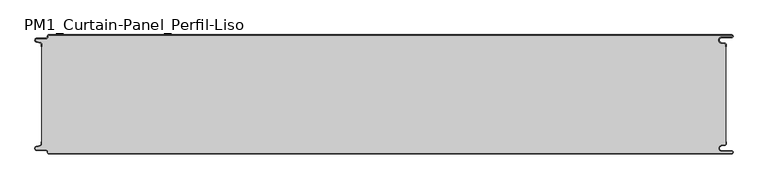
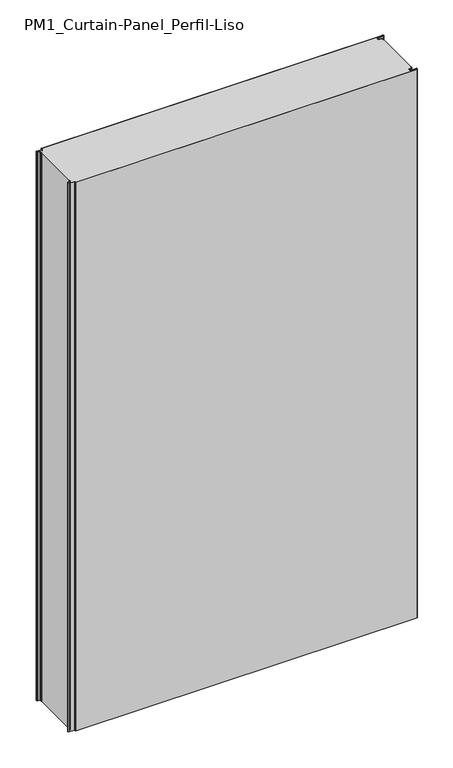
"""IFC4 building model written with IfcOpenShell, lengths in millimetres: plate geometry, PM1_Curtain-Panel_Perfil-Liso : ACH_PM1_Panel-Acústico-Sectorización_200M."""

from ifc_helpers import new_model, si_unit, point, frame, frame_2d, origin, origin_with_axes, place, context, project, spatial, polyline, circle_curve, trimmed, segment, composite_curve, outline, extrude, source, transform, mapped, element, save
from ifc_brep_helpers import plane_surface, cylinder_surface, revolved_surface, advanced_brep


def pm1_curtain_panel_perfil_liso_6e2cb82f(model_context):
    return source(origin(), model_context, "Body", "SolidModel", [
        advanced_brep(
        [(583.1, 0.0, 1945.7507136), (-562.4, 0.0, 1945.7507136), (-564.4, -2.0, 1945.7507136), (-564.4, -3.4, 1945.7507136), (-566.4, -5.4, 1945.7507136), (-581.9, -5.4, 1945.7507136), (-582.7098239, -12.5077322, 1945.7507136), (-576.5500979, -13.929817, 1945.7507136), (-575.0, -15.878557, 1945.7507136), (-575.0, -20.0, 1945.7507136), (-574.2, -20.0, 1945.7507136), (-574.2, -15.878557, 1945.7507136), (-576.370137, -13.1503208, 1945.7507136), (-582.529863, -11.728236, 1945.7507136), (-581.9, -6.2, 1945.7507136), (-566.4, -6.2, 1945.7507136), (-563.6, -3.4, 1945.7507136), (-563.6, -2.0, 1945.7507136), (-562.4, -0.8, 1945.7507136), (583.1, -0.8, 1945.7507136), (583.1, -4.2, 1945.7507136), (566.1, -4.2, 1945.7507136), (565.266489, -13.7270773, 1945.7507136), (571.7125666, -14.8636942, 1945.7507136), (573.2, -16.636348, 1945.7507136), (573.2, -20.0, 1945.7507136), (574.0, -20.0, 1945.7507136), (574.0, -16.636348, 1945.7507136), (571.8514851, -14.0758478, 1945.7507136), (565.4054075, -12.9392309, 1945.7507136), (566.1, -5.0, 1945.7507136), (583.1, -5.0, 1945.7507136), (585.6, -2.5, 1945.7507136), (-562.4, 0.0, 0.0), (583.1, 0.0, 0.0), (585.6, -2.5, 0.0), (583.1, -5.0, 0.0), (566.1, -5.0, 0.0), (565.4054075, -12.939231, 0.0), (571.8514851, -14.075848, 0.0), (574.0, -16.636348, 0.0), (574.0, -20.0, 0.0), (573.2, -20.0, 0.0), (573.2, -16.636348, 0.0), (571.7125666, -14.863694, 0.0), (565.266489, -13.7270771, 0.0), (566.1, -4.2, 0.0), (583.1, -4.2, 0.0), (583.1, -0.8, 0.0), (-562.4, -0.8, 0.0), (-563.6, -2.0, 0.0), (-563.6, -3.4, 0.0), (-566.4, -6.2, 0.0), (-581.9, -6.2, 0.0), (-582.529863, -11.7282362, 0.0), (-576.370137, -13.150321, 0.0), (-574.2, -15.878557, 0.0), (-574.2, -20.0, 0.0), (-575.0, -20.0, 0.0), (-575.0, -15.878557, 0.0), (-576.5500978, -13.9298169, 0.0), (-582.7098239, -12.507732, 0.0), (-581.9, -5.4, 0.0), (-566.4, -5.4, 0.0), (-564.4, -3.4, 0.0), (-564.4, -2.0, 0.0)],
        [
            (0, 1),
            (1, 2, circle_curve(frame((-562.4, -2.0, 1945.7507136), z_axis=(0.0, 0.0, 1.0), x_axis=(1.0, 0.0, 0.0)), 2.0)),
            (2, 3),
            (3, 4, circle_curve(frame((-566.4, -3.4, 1945.7507136), z_axis=(0.0, 0.0, -1.0), x_axis=(1.0, 0.0, 0.0)), 2.0)),
            (4, 5),
            (5, 6, circle_curve(frame((-581.9, -9.0, 1945.7507136), z_axis=(0.0, 0.0, 1.0), x_axis=(1.0, 0.0, 0.0)), 3.6)),
            (6, 7),
            (7, 8, circle_curve(frame((-577.0, -15.878557, 1945.7507136), z_axis=(0.0, 0.0, -1.0), x_axis=(1.0, 0.0, 0.0)), 2.0)),
            (8, 9),
            (9, 10),
            (10, 11),
            (11, 12, circle_curve(frame((-577.0, -15.878557, 1945.7507136), z_axis=(0.0, 0.0, 1.0), x_axis=(1.0, 0.0, 0.0)), 2.8)),
            (12, 13),
            (13, 14, circle_curve(frame((-581.9, -9.0, 1945.7507136), z_axis=(0.0, 0.0, -1.0), x_axis=(1.0, 0.0, 0.0)), 2.8)),
            (14, 15),
            (15, 16, circle_curve(frame((-566.4, -3.4, 1945.7507136), z_axis=(0.0, 0.0, 1.0), x_axis=(1.0, 0.0, 0.0)), 2.8)),
            (16, 17),
            (17, 18, circle_curve(frame((-562.4, -2.0, 1945.7507136), z_axis=(0.0, 0.0, -1.0), x_axis=(1.0, 0.0, 0.0)), 1.2)),
            (18, 19),
            (19, 20, circle_curve(frame((583.1, -2.5, 1945.7507136), z_axis=(0.0, 0.0, -1.0), x_axis=(1.0, 0.0, 0.0)), 1.7)),
            (20, 21),
            (21, 22, circle_curve(frame((566.1, -9.0, 1945.7507136), z_axis=(0.0, 0.0, 1.0), x_axis=(1.0, 0.0, 0.0)), 4.8)),
            (22, 23),
            (23, 24, circle_curve(frame((571.4, -16.636348, 1945.7507136), z_axis=(0.0, 0.0, -1.0), x_axis=(1.0, 0.0, 0.0)), 1.8)),
            (24, 25),
            (25, 26),
            (26, 27),
            (27, 28, circle_curve(frame((571.4, -16.636348, 1945.7507136), z_axis=(0.0, 0.0, 1.0), x_axis=(1.0, 0.0, 0.0)), 2.6)),
            (28, 29),
            (29, 30, circle_curve(frame((566.1, -9.0, 1945.7507136), z_axis=(0.0, 0.0, -1.0), x_axis=(1.0, 0.0, 0.0)), 4.0)),
            (30, 31),
            (31, 32, circle_curve(frame((583.1, -2.5, 1945.7507136), z_axis=(0.0, 0.0, 1.0), x_axis=(1.0, 0.0, 0.0)), 2.5)),
            (32, 0, circle_curve(frame((583.1, -2.5, 1945.7507136), z_axis=(0.0, 0.0, 1.0), x_axis=(1.0, 0.0, 0.0)), 2.5)),
            (33, 34),
            (34, 35, circle_curve(frame((583.1, -2.5, 0.0), z_axis=(0.0, 0.0, -1.0), x_axis=(1.0, 0.0, 0.0)), 2.5)),
            (35, 36, circle_curve(frame((583.1, -2.5, 0.0), z_axis=(0.0, 0.0, -1.0), x_axis=(1.0, 0.0, 0.0)), 2.5)),
            (36, 37),
            (37, 38, circle_curve(frame((566.1, -9.0, 0.0), z_axis=(0.0, 0.0, 1.0), x_axis=(1.0, 0.0, 0.0)), 4.0)),
            (38, 39),
            (39, 40, circle_curve(frame((571.4, -16.636348, 0.0), z_axis=(0.0, 0.0, -1.0), x_axis=(1.0, 0.0, 0.0)), 2.6)),
            (40, 41),
            (41, 42),
            (42, 43),
            (43, 44, circle_curve(frame((571.4, -16.636348, 0.0), z_axis=(0.0, 0.0, 1.0), x_axis=(1.0, 0.0, 0.0)), 1.8)),
            (44, 45),
            (45, 46, circle_curve(frame((566.1, -9.0, 0.0), z_axis=(0.0, 0.0, -1.0), x_axis=(1.0, 0.0, 0.0)), 4.8)),
            (46, 47),
            (47, 48, circle_curve(frame((583.1, -2.5, 0.0), z_axis=(0.0, 0.0, 1.0), x_axis=(1.0, 0.0, 0.0)), 1.7)),
            (48, 49),
            (49, 50, circle_curve(frame((-562.4, -2.0, 0.0), z_axis=(0.0, 0.0, 1.0), x_axis=(1.0, 0.0, 0.0)), 1.2)),
            (50, 51),
            (51, 52, circle_curve(frame((-566.4, -3.4, 0.0), z_axis=(0.0, 0.0, -1.0), x_axis=(1.0, 0.0, 0.0)), 2.8)),
            (52, 53),
            (53, 54, circle_curve(frame((-581.9, -9.0, 0.0), z_axis=(0.0, 0.0, 1.0), x_axis=(1.0, 0.0, 0.0)), 2.8)),
            (54, 55),
            (55, 56, circle_curve(frame((-577.0, -15.878557, 0.0), z_axis=(0.0, 0.0, -1.0), x_axis=(1.0, 0.0, 0.0)), 2.8)),
            (56, 57),
            (57, 58),
            (58, 59),
            (59, 60, circle_curve(frame((-577.0, -15.878557, 0.0), z_axis=(0.0, 0.0, 1.0), x_axis=(1.0, 0.0, 0.0)), 2.0)),
            (60, 61),
            (61, 62, circle_curve(frame((-581.9, -9.0, 0.0), z_axis=(0.0, 0.0, -1.0), x_axis=(1.0, 0.0, 0.0)), 3.6)),
            (62, 63),
            (63, 64, circle_curve(frame((-566.4, -3.4, 0.0), z_axis=(0.0, 0.0, 1.0), x_axis=(1.0, 0.0, 0.0)), 2.0)),
            (64, 65),
            (65, 33, circle_curve(frame((-562.4, -2.0, 0.0), z_axis=(0.0, 0.0, -1.0), x_axis=(1.0, 0.0, 0.0)), 2.0)),
            (1, 33),
            (65, 2),
            (64, 3),
            (63, 4),
            (62, 5),
            (61, 6),
            (60, 7),
            (59, 8),
            (58, 9),
            (57, 10),
            (56, 11),
            (55, 12),
            (54, 13),
            (53, 14),
            (52, 15),
            (51, 16),
            (50, 17),
            (49, 18),
            (48, 19),
            (47, 20),
            (46, 21),
            (45, 22),
            (44, 23),
            (43, 24),
            (42, 25),
            (41, 26),
            (40, 27),
            (39, 28),
            (38, 29),
            (37, 30),
            (36, 31),
            (34, 0),
        ],
        [
            plane_surface(frame((-575.0, 0.0, 1945.7507136), z_axis=(0.0, 0.0, 1.0), x_axis=(0.0, 1.0, 0.0))),
            plane_surface(frame((-575.0, 0.0, 0.0), z_axis=(0.0, 0.0, -1.0), x_axis=(0.0, 1.0, 0.0))),
            cylinder_surface(frame((-562.4, -2.0, 1945.7507136), z_axis=(0.0, 0.0, 1.0), x_axis=(1.0, 0.0, 0.0)), 2.0),
            plane_surface(frame((-564.4, -2.0, 1945.7507136), z_axis=(-1.0, 0.0, 0.0), x_axis=(0.0, 0.0, -1.0))),
            revolved_surface(polyline([(-564.4, -3.4, 0.0), (-564.4, -3.4, 1945.7507136)]), (-566.4, -3.4, 1945.7507136), (0.0, 0.0, -1.0)),
            plane_surface(frame((-566.4, -5.4, 1945.7507136), z_axis=(0.0, 1.0, 0.0), x_axis=(0.0, 0.0, -1.0))),
            cylinder_surface(frame((-581.9, -9.0, 1945.7507136), z_axis=(0.0, 0.0, 1.0), x_axis=(1.0, 0.0, 0.0)), 3.6),
            plane_surface(frame((-582.7098239, -12.507732, 1945.7507136), z_axis=(-0.2249510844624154, -0.9743700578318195, 0.0), x_axis=(0.0, 0.0, -1.0))),
            revolved_surface(polyline([(-575.0, -15.878557, 0.0), (-575.0, -15.878557, 1945.7507136)]), (-577.0, -15.878557, 1945.7507136), (0.0, 0.0, -1.0)),
            plane_surface(frame((-575.0, -15.878557, 1945.7507136), z_axis=(-1.0, 0.0, 0.0), x_axis=(0.0, 0.0, -1.0))),
            plane_surface(frame((-575.0, -20.0, 1945.7507136), z_axis=(0.0, -1.0, 0.0), x_axis=(0.0, 0.0, -1.0))),
            plane_surface(frame((-574.2, -20.0, 1945.7507136), z_axis=(1.0, 0.0, 0.0), x_axis=(0.0, 0.0, -1.0))),
            cylinder_surface(frame((-577.0, -15.878557, 1945.7507136), z_axis=(0.0, 0.0, 1.0), x_axis=(1.0, 0.0, 0.0)), 2.8),
            plane_surface(frame((-576.370137, -13.150321, 1945.7507136), z_axis=(0.22495108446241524, 0.9743700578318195, 0.0), x_axis=(0.0, 0.0, -1.0))),
            revolved_surface(polyline([(-579.1, -9.0, 0.0), (-579.1, -9.0, 1945.7507136)]), (-581.9, -9.0, 1945.7507136), (0.0, 0.0, -1.0)),
            plane_surface(frame((-581.9, -6.2, 1945.7507136), z_axis=(0.0, -1.0, 0.0), x_axis=(0.0, 0.0, -1.0))),
            cylinder_surface(frame((-566.4, -3.4, 1945.7507136), z_axis=(0.0, 0.0, 1.0), x_axis=(1.0, 0.0, 0.0)), 2.8),
            plane_surface(frame((-563.6, -3.4, 1945.7507136), z_axis=(1.0, 0.0, 0.0), x_axis=(0.0, 0.0, -1.0))),
            revolved_surface(polyline([(-561.1999999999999, -2.0, 0.0), (-561.1999999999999, -2.0, 1945.7507136)]), (-562.4, -2.0, 1945.7507136), (0.0, 0.0, -1.0)),
            plane_surface(frame((560.890897, -0.8, 1945.7507136), z_axis=(0.0, -1.0, 0.0), x_axis=(0.0, 0.0, -1.0))),
            revolved_surface(polyline([(584.8000000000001, -2.5, 0.0), (584.8000000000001, -2.5, 1945.7507136)]), (583.1, -2.5, 1945.7507136), (0.0, 0.0, -1.0)),
            plane_surface(frame((583.1, -4.2, 1945.7507136), z_axis=(0.0, 1.0, 0.0), x_axis=(0.0, 0.0, -1.0))),
            cylinder_surface(frame((566.1, -9.0, 1945.7507136), z_axis=(0.0, 0.0, 1.0), x_axis=(1.0, 0.0, 0.0)), 4.8),
            plane_surface(frame((565.266489, -13.7270771, 1945.7507136), z_axis=(-0.1736481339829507, -0.9848077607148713, 0.0), x_axis=(0.0, 0.0, -1.0))),
            revolved_surface(polyline([(573.1999999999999, -16.636348, 0.0), (573.1999999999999, -16.636348, 1945.7507136)]), (571.4, -16.636348, 1945.7507136), (0.0, 0.0, -1.0)),
            plane_surface(frame((573.2, -16.636348, 1945.7507136), z_axis=(-1.0, 0.0, 0.0), x_axis=(0.0, 0.0, -1.0))),
            plane_surface(frame((573.2, -20.0, 1945.7507136), z_axis=(0.0, -1.0, 0.0), x_axis=(0.0, 0.0, -1.0))),
            plane_surface(frame((574.0, -20.0, 1945.7507136), z_axis=(1.0, 0.0, 0.0), x_axis=(0.0, 0.0, -1.0))),
            cylinder_surface(frame((571.4, -16.636348, 1945.7507136), z_axis=(0.0, 0.0, 1.0), x_axis=(1.0, 0.0, 0.0)), 2.6),
            plane_surface(frame((571.8514851, -14.075848, 1945.7507136), z_axis=(0.17364813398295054, 0.9848077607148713, 0.0), x_axis=(0.0, 0.0, -1.0))),
            revolved_surface(polyline([(570.1, -9.0, 0.0), (570.1, -9.0, 1945.7507136)]), (566.1, -9.0, 1945.7507136), (0.0, 0.0, -1.0)),
            plane_surface(frame((566.1, -5.0, 1945.7507136), z_axis=(0.0, -1.0, 0.0), x_axis=(0.0, 0.0, -1.0))),
            cylinder_surface(frame((583.1, -2.5, 1945.7507136), z_axis=(0.0, 0.0, 1.0), x_axis=(1.0, 0.0, 0.0)), 2.5),
            plane_surface(frame((510.5961529, 0.0, 1945.7507136), z_axis=(0.0, 1.0, 0.0), x_axis=(0.0, 0.0, -1.0))),
        ],
        [
            (0, [[1, 2, 3, 4, 5, 6, 7, 8, 9, 10, 11, 12, 13, 14, 15, 16, 17, 18, 19, 20, 21, 22, 23, 24, 25, 26, 27, 28, 29, 30, 31, 32, 33]]),
            (1, [[34, 35, 36, 37, 38, 39, 40, 41, 42, 43, 44, 45, 46, 47, 48, 49, 50, 51, 52, 53, 54, 55, 56, 57, 58, 59, 60, 61, 62, 63, 64, 65, 66]]),
            (2, [[-2, 67, -66, 68]]),
            (3, [[-3, -68, -65, 69]]),
            (4, [[-4, -69, -64, 70]]),
            (5, [[-5, -70, -63, 71]]),
            (6, [[-6, -71, -62, 72]]),
            (7, [[-7, -72, -61, 73]]),
            (8, [[-8, -73, -60, 74]]),
            (9, [[-9, -74, -59, 75]]),
            (10, [[-10, -75, -58, 76]]),
            (11, [[-11, -76, -57, 77]]),
            (12, [[-12, -77, -56, 78]]),
            (13, [[-13, -78, -55, 79]]),
            (14, [[-14, -79, -54, 80]]),
            (15, [[-15, -80, -53, 81]]),
            (16, [[-16, -81, -52, 82]]),
            (17, [[-17, -82, -51, 83]]),
            (18, [[-18, -83, -50, 84]]),
            (19, [[-19, -84, -49, 85]]),
            (20, [[-20, -85, -48, 86]]),
            (21, [[-21, -86, -47, 87]]),
            (22, [[-22, -87, -46, 88]]),
            (23, [[-23, -88, -45, 89]]),
            (24, [[-24, -89, -44, 90]]),
            (25, [[-25, -90, -43, 91]]),
            (26, [[-26, -91, -42, 92]]),
            (27, [[-27, -92, -41, 93]]),
            (28, [[-28, -93, -40, 94]]),
            (29, [[-29, -94, -39, 95]]),
            (30, [[-30, -95, -38, 96]]),
            (31, [[-31, -96, -37, 97]]),
            (32, [[-97, -36, -35, 98, -33, -32]]),
            (33, [[-1, -98, -34, -67]]),
        ],
    ),
        extrude(outline(composite_curve([segment(polyline([(-574.2, -184.1214426), (-574.2, -15.8785573)]), True, "CONTINUOUS"), segment(trimmed(circle_curve(frame_2d((-577.0, -15.8785573)), 2.8), [point((-574.2, -15.8785573))], [point((-576.370137, -13.1503212))], True, "CARTESIAN"), True, "CONTINUOUS"), segment(polyline([(-576.370137, -13.1503212), (-582.5298631, -11.7282362)]), True, "CONTINUOUS"), segment(trimmed(circle_curve(frame_2d((-581.9, -9.0)), 2.8), [point((-582.5298631, -11.7282362))], [point((-581.9, -6.2))], False, "CARTESIAN"), True, "CONTINUOUS"), segment(polyline([(-581.9, -6.2), (-566.4000001, -6.2)]), True, "CONTINUOUS"), segment(trimmed(circle_curve(frame_2d((-566.4000001, -3.4)), 2.8), [point((-566.4000001, -6.2))], [point((-563.6000001, -3.4))], True, "CARTESIAN"), True, "CONTINUOUS"), segment(polyline([(-563.6000001, -3.4), (-563.6000001, -2.0)]), True, "CONTINUOUS"), segment(trimmed(circle_curve(frame_2d((-562.4000001, -2.0)), 1.2), [point((-563.6000001, -2.0))], [point((-562.4000001, -0.8))], False, "CARTESIAN"), True, "CONTINUOUS"), segment(polyline([(-562.4000001, -0.8), (583.1, -0.8)]), True, "CONTINUOUS"), segment(trimmed(circle_curve(frame_2d((583.1, -2.5)), 1.7), [point((583.1, -0.8))], [point((583.1, -4.2))], False, "CARTESIAN"), True, "CONTINUOUS"), segment(polyline([(583.1, -4.2), (566.1, -4.2)]), True, "CONTINUOUS"), segment(trimmed(circle_curve(frame_2d((566.1, -9.0)), 4.8), [point((566.1, -4.2))], [point((565.2664883, -13.7270771))], True, "CARTESIAN"), True, "CONTINUOUS"), segment(polyline([(565.2664883, -13.7270771), (571.7125668, -14.8636953)]), True, "CONTINUOUS"), segment(trimmed(circle_curve(frame_2d((571.4, -16.6363492)), 1.8), [point((571.7125668, -14.8636953))], [point((573.2, -16.6363492))], False, "CARTESIAN"), True, "CONTINUOUS"), segment(polyline([(573.2, -16.6363492), (573.2, -183.3636508)]), True, "CONTINUOUS"), segment(trimmed(circle_curve(frame_2d((571.4, -183.3636508)), 1.8), [point((573.2, -183.3636508))], [point((571.7125668, -185.1363047))], False, "CARTESIAN"), True, "CONTINUOUS"), segment(polyline([(571.7125668, -185.1363047), (565.2664883, -186.2729229)]), True, "CONTINUOUS"), segment(trimmed(circle_curve(frame_2d((566.1, -191.0)), 4.8), [point((565.2664883, -186.2729229))], [point((566.1, -195.8))], True, "CARTESIAN"), True, "CONTINUOUS"), segment(polyline([(566.1, -195.8), (583.1, -195.8)]), True, "CONTINUOUS"), segment(trimmed(circle_curve(frame_2d((583.1, -197.5)), 1.7), [point((583.1, -195.8))], [point((583.1, -199.2))], False, "CARTESIAN"), True, "CONTINUOUS"), segment(polyline([(583.1, -199.2), (-562.4000001, -199.2)]), True, "CONTINUOUS"), segment(trimmed(circle_curve(frame_2d((-562.4000001, -198.0)), 1.2), [point((-562.4000001, -199.2))], [point((-563.6000001, -198.0))], False, "CARTESIAN"), True, "CONTINUOUS"), segment(polyline([(-563.6000001, -198.0), (-563.6000001, -196.6)]), True, "CONTINUOUS"), segment(trimmed(circle_curve(frame_2d((-566.4000001, -196.6)), 2.8), [point((-563.6000001, -196.6))], [point((-566.4000001, -193.8))], True, "CARTESIAN"), True, "CONTINUOUS"), segment(polyline([(-566.4000001, -193.8), (-581.9, -193.8)]), True, "CONTINUOUS"), segment(trimmed(circle_curve(frame_2d((-581.9, -191.0)), 2.8), [point((-581.9, -193.8))], [point((-582.5298631, -188.2717638))], False, "CARTESIAN"), True, "CONTINUOUS"), segment(polyline([(-582.5298631, -188.2717638), (-576.370137, -186.8496788)]), True, "CONTINUOUS"), segment(trimmed(circle_curve(frame_2d((-577.0, -184.1214426)), 2.8), [point((-576.370137, -186.8496788))], [point((-574.2, -184.1214426))], True, "CARTESIAN"), True, "CONTINUOUS")], self_intersect=False)), origin_with_axes(), (0.0, 0.0, 1.0), 1945.7507136),
        advanced_brep(
        [(-562.4, -200.0, 1945.7507136), (583.1, -200.0, 1945.7507136), (585.6, -197.5, 1945.7507136), (583.1, -195.0, 1945.7507136), (566.1, -195.0, 1945.7507136), (565.4054075, -187.060769, 1945.7507136), (571.8514851, -185.924152, 1945.7507136), (574.0, -183.363652, 1945.7507136), (574.0, -180.0, 1945.7507136), (573.2, -180.0, 1945.7507136), (573.2, -183.363652, 1945.7507136), (571.7125666, -185.136306, 1945.7507136), (565.266489, -186.2729229, 1945.7507136), (566.1, -195.8, 1945.7507136), (583.1, -195.8, 1945.7507136), (583.1, -199.2, 1945.7507136), (-562.4, -199.2, 1945.7507136), (-563.6, -198.0, 1945.7507136), (-563.6, -196.6, 1945.7507136), (-566.4, -193.8, 1945.7507136), (-581.9, -193.8, 1945.7507136), (-582.529863, -188.2717638, 1945.7507136), (-576.370137, -186.849679, 1945.7507136), (-574.2, -184.121443, 1945.7507136), (-574.2, -180.0, 1945.7507136), (-575.0, -180.0, 1945.7507136), (-575.0, -184.121443, 1945.7507136), (-576.5500978, -186.0701831, 1945.7507136), (-582.7098239, -187.492268, 1945.7507136), (-581.9, -194.6, 1945.7507136), (-566.4, -194.6, 1945.7507136), (-564.4, -196.6, 1945.7507136), (-564.4, -198.0, 1945.7507136), (583.1, -200.0, 0.0), (-562.4, -200.0, 0.0), (-564.4, -198.0, 0.0), (-564.4, -196.6, 0.0), (-566.4, -194.6, 0.0), (-581.9, -194.6, 0.0), (-582.7098239, -187.4922678, 0.0), (-576.5500979, -186.070183, 0.0), (-575.0, -184.121443, 0.0), (-575.0, -180.0, 0.0), (-574.2, -180.0, 0.0), (-574.2, -184.121443, 0.0), (-576.370137, -186.8496792, 0.0), (-582.529863, -188.271764, 0.0), (-581.9, -193.8, 0.0), (-566.4, -193.8, 0.0), (-563.6, -196.6, 0.0), (-563.6, -198.0, 0.0), (-562.4, -199.2, 0.0), (583.1, -199.2, 0.0), (583.1, -195.8, 0.0), (566.1, -195.8, 0.0), (565.266489, -186.2729227, 0.0), (571.7125666, -185.1363058, 0.0), (573.2, -183.363652, 0.0), (573.2, -180.0, 0.0), (574.0, -180.0, 0.0), (574.0, -183.363652, 0.0), (571.8514851, -185.9241522, 0.0), (565.4054075, -187.0607691, 0.0), (566.1, -195.0, 0.0), (583.1, -195.0, 0.0), (585.6, -197.5, 0.0)],
        [
            (0, 1),
            (1, 2, circle_curve(frame((583.1, -197.5, 1945.7507136), z_axis=(0.0, 0.0, 1.0), x_axis=(1.0, 0.0, 0.0)), 2.5)),
            (2, 3, circle_curve(frame((583.1, -197.5, 1945.7507136), z_axis=(0.0, 0.0, 1.0), x_axis=(1.0, 0.0, 0.0)), 2.5)),
            (3, 4),
            (4, 5, circle_curve(frame((566.1, -191.0, 1945.7507136), z_axis=(0.0, 0.0, -1.0), x_axis=(1.0, 0.0, 0.0)), 4.0)),
            (5, 6),
            (6, 7, circle_curve(frame((571.4, -183.363652, 1945.7507136), z_axis=(0.0, 0.0, 1.0), x_axis=(1.0, 0.0, 0.0)), 2.6)),
            (7, 8),
            (8, 9),
            (9, 10),
            (10, 11, circle_curve(frame((571.4, -183.363652, 1945.7507136), z_axis=(0.0, 0.0, -1.0), x_axis=(1.0, 0.0, 0.0)), 1.8)),
            (11, 12),
            (12, 13, circle_curve(frame((566.1, -191.0, 1945.7507136), z_axis=(0.0, 0.0, 1.0), x_axis=(1.0, 0.0, 0.0)), 4.8)),
            (13, 14),
            (14, 15, circle_curve(frame((583.1, -197.5, 1945.7507136), z_axis=(0.0, 0.0, -1.0), x_axis=(1.0, 0.0, 0.0)), 1.7)),
            (15, 16),
            (16, 17, circle_curve(frame((-562.4, -198.0, 1945.7507136), z_axis=(0.0, 0.0, -1.0), x_axis=(1.0, 0.0, 0.0)), 1.2)),
            (17, 18),
            (18, 19, circle_curve(frame((-566.4, -196.6, 1945.7507136), z_axis=(0.0, 0.0, 1.0), x_axis=(1.0, 0.0, 0.0)), 2.8)),
            (19, 20),
            (20, 21, circle_curve(frame((-581.9, -191.0, 1945.7507136), z_axis=(0.0, 0.0, -1.0), x_axis=(1.0, 0.0, 0.0)), 2.8)),
            (21, 22),
            (22, 23, circle_curve(frame((-577.0, -184.121443, 1945.7507136), z_axis=(0.0, 0.0, 1.0), x_axis=(1.0, 0.0, 0.0)), 2.8)),
            (23, 24),
            (24, 25),
            (25, 26),
            (26, 27, circle_curve(frame((-577.0, -184.121443, 1945.7507136), z_axis=(0.0, 0.0, -1.0), x_axis=(1.0, 0.0, 0.0)), 2.0)),
            (27, 28),
            (28, 29, circle_curve(frame((-581.9, -191.0, 1945.7507136), z_axis=(0.0, 0.0, 1.0), x_axis=(1.0, 0.0, 0.0)), 3.6)),
            (29, 30),
            (30, 31, circle_curve(frame((-566.4, -196.6, 1945.7507136), z_axis=(0.0, 0.0, -1.0), x_axis=(1.0, 0.0, 0.0)), 2.0)),
            (31, 32),
            (32, 0, circle_curve(frame((-562.4, -198.0, 1945.7507136), z_axis=(0.0, 0.0, 1.0), x_axis=(1.0, 0.0, 0.0)), 2.0)),
            (33, 34),
            (34, 35, circle_curve(frame((-562.4, -198.0, 0.0), z_axis=(0.0, 0.0, -1.0), x_axis=(1.0, 0.0, 0.0)), 2.0)),
            (35, 36),
            (36, 37, circle_curve(frame((-566.4, -196.6, 0.0), z_axis=(0.0, 0.0, 1.0), x_axis=(1.0, 0.0, 0.0)), 2.0)),
            (37, 38),
            (38, 39, circle_curve(frame((-581.9, -191.0, 0.0), z_axis=(0.0, 0.0, -1.0), x_axis=(1.0, 0.0, 0.0)), 3.6)),
            (39, 40),
            (40, 41, circle_curve(frame((-577.0, -184.121443, 0.0), z_axis=(0.0, 0.0, 1.0), x_axis=(1.0, 0.0, 0.0)), 2.0)),
            (41, 42),
            (42, 43),
            (43, 44),
            (44, 45, circle_curve(frame((-577.0, -184.121443, 0.0), z_axis=(0.0, 0.0, -1.0), x_axis=(1.0, 0.0, 0.0)), 2.8)),
            (45, 46),
            (46, 47, circle_curve(frame((-581.9, -191.0, 0.0), z_axis=(0.0, 0.0, 1.0), x_axis=(1.0, 0.0, 0.0)), 2.8)),
            (47, 48),
            (48, 49, circle_curve(frame((-566.4, -196.6, 0.0), z_axis=(0.0, 0.0, -1.0), x_axis=(1.0, 0.0, 0.0)), 2.8)),
            (49, 50),
            (50, 51, circle_curve(frame((-562.4, -198.0, 0.0), z_axis=(0.0, 0.0, 1.0), x_axis=(1.0, 0.0, 0.0)), 1.2)),
            (51, 52),
            (52, 53, circle_curve(frame((583.1, -197.5, 0.0), z_axis=(0.0, 0.0, 1.0), x_axis=(1.0, 0.0, 0.0)), 1.7)),
            (53, 54),
            (54, 55, circle_curve(frame((566.1, -191.0, 0.0), z_axis=(0.0, 0.0, -1.0), x_axis=(1.0, 0.0, 0.0)), 4.8)),
            (55, 56),
            (56, 57, circle_curve(frame((571.4, -183.363652, 0.0), z_axis=(0.0, 0.0, 1.0), x_axis=(1.0, 0.0, 0.0)), 1.8)),
            (57, 58),
            (58, 59),
            (59, 60),
            (60, 61, circle_curve(frame((571.4, -183.363652, 0.0), z_axis=(0.0, 0.0, -1.0), x_axis=(1.0, 0.0, 0.0)), 2.6)),
            (61, 62),
            (62, 63, circle_curve(frame((566.1, -191.0, 0.0), z_axis=(0.0, 0.0, 1.0), x_axis=(1.0, 0.0, 0.0)), 4.0)),
            (63, 64),
            (64, 65, circle_curve(frame((583.1, -197.5, 0.0), z_axis=(0.0, 0.0, -1.0), x_axis=(1.0, 0.0, 0.0)), 2.5)),
            (65, 33, circle_curve(frame((583.1, -197.5, 0.0), z_axis=(0.0, 0.0, -1.0), x_axis=(1.0, 0.0, 0.0)), 2.5)),
            (0, 34),
            (33, 1),
            (64, 3),
            (63, 4),
            (62, 5),
            (61, 6),
            (60, 7),
            (59, 8),
            (58, 9),
            (57, 10),
            (56, 11),
            (55, 12),
            (54, 13),
            (53, 14),
            (52, 15),
            (51, 16),
            (50, 17),
            (49, 18),
            (48, 19),
            (47, 20),
            (46, 21),
            (45, 22),
            (44, 23),
            (43, 24),
            (42, 25),
            (41, 26),
            (40, 27),
            (39, 28),
            (38, 29),
            (37, 30),
            (36, 31),
            (35, 32),
        ],
        [
            plane_surface(frame((-575.0, -200.0, 1945.7507136), z_axis=(0.0, 0.0, 1.0), x_axis=(0.0, 1.0, 0.0))),
            plane_surface(frame((-575.0, -200.0, 0.0), z_axis=(0.0, 0.0, -1.0), x_axis=(0.0, 1.0, 0.0))),
            plane_surface(frame((560.890897, -200.0, 1945.7507136), z_axis=(0.0, -1.0, 0.0), x_axis=(0.0, 0.0, -1.0))),
            cylinder_surface(frame((583.1, -197.5, 1945.7507136), z_axis=(0.0, 0.0, 1.0), x_axis=(1.0, 0.0, 0.0)), 2.5),
            plane_surface(frame((583.1, -195.0, 1945.7507136), z_axis=(0.0, 1.0, 0.0), x_axis=(0.0, 0.0, -1.0))),
            revolved_surface(polyline([(570.1, -191.0, 0.0), (570.1, -191.0, 1945.7507136)]), (566.1, -191.0, 1945.7507136), (0.0, 0.0, -1.0)),
            plane_surface(frame((565.4054075, -187.0607691, 1945.7507136), z_axis=(0.17364813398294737, -0.9848077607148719, 0.0), x_axis=(0.0, 0.0, -1.0))),
            cylinder_surface(frame((571.4, -183.363652, 1945.7507136), z_axis=(0.0, 0.0, 1.0), x_axis=(1.0, 0.0, 0.0)), 2.6),
            plane_surface(frame((574.0, -183.363652, 1945.7507136), z_axis=(1.0, 0.0, 0.0), x_axis=(0.0, 0.0, -1.0))),
            plane_surface(frame((574.0, -180.0, 1945.7507136), z_axis=(0.0, 1.0, 0.0), x_axis=(0.0, 0.0, -1.0))),
            plane_surface(frame((573.2, -180.0, 1945.7507136), z_axis=(-1.0, 0.0, 0.0), x_axis=(0.0, 0.0, -1.0))),
            revolved_surface(polyline([(573.1999999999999, -183.363652, 0.0), (573.1999999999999, -183.363652, 1945.7507136)]), (571.4, -183.363652, 1945.7507136), (0.0, 0.0, -1.0)),
            plane_surface(frame((571.7125666, -185.1363058, 1945.7507136), z_axis=(-0.17364813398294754, 0.9848077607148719, 0.0), x_axis=(0.0, 0.0, -1.0))),
            cylinder_surface(frame((566.1, -191.0, 1945.7507136), z_axis=(0.0, 0.0, 1.0), x_axis=(1.0, 0.0, 0.0)), 4.8),
            plane_surface(frame((566.1, -195.8, 1945.7507136), z_axis=(0.0, -1.0, 0.0), x_axis=(0.0, 0.0, -1.0))),
            revolved_surface(polyline([(584.8000000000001, -197.5, 0.0), (584.8000000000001, -197.5, 1945.7507136)]), (583.1, -197.5, 1945.7507136), (0.0, 0.0, -1.0)),
            plane_surface(frame((510.8105122, -199.2, 1945.7507136), z_axis=(0.0, 1.0, 0.0), x_axis=(0.0, 0.0, -1.0))),
            revolved_surface(polyline([(-561.1999999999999, -198.0, 0.0), (-561.1999999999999, -198.0, 1945.7507136)]), (-562.4, -198.0, 1945.7507136), (0.0, 0.0, -1.0)),
            plane_surface(frame((-563.6, -198.0, 1945.7507136), z_axis=(1.0, 0.0, 0.0), x_axis=(0.0, 0.0, -1.0))),
            cylinder_surface(frame((-566.4, -196.6, 1945.7507136), z_axis=(0.0, 0.0, 1.0), x_axis=(1.0, 0.0, 0.0)), 2.8),
            plane_surface(frame((-566.4, -193.8, 1945.7507136), z_axis=(0.0, 1.0, 0.0), x_axis=(0.0, 0.0, -1.0))),
            revolved_surface(polyline([(-579.1, -191.0, 0.0), (-579.1, -191.0, 1945.7507136)]), (-581.9, -191.0, 1945.7507136), (0.0, 0.0, -1.0)),
            plane_surface(frame((-582.529863, -188.271764, 1945.7507136), z_axis=(0.2249510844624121, -0.9743700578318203, 0.0), x_axis=(0.0, 0.0, -1.0))),
            cylinder_surface(frame((-577.0, -184.121443, 1945.7507136), z_axis=(0.0, 0.0, 1.0), x_axis=(1.0, 0.0, 0.0)), 2.8),
            plane_surface(frame((-574.2, -184.121443, 1945.7507136), z_axis=(1.0, 0.0, 0.0), x_axis=(0.0, 0.0, -1.0))),
            plane_surface(frame((-574.2, -180.0, 1945.7507136), z_axis=(0.0, 1.0, 0.0), x_axis=(0.0, 0.0, -1.0))),
            plane_surface(frame((-575.0, -180.0, 1945.7507136), z_axis=(-1.0, 0.0, 0.0), x_axis=(0.0, 0.0, -1.0))),
            revolved_surface(polyline([(-575.0, -184.121443, 0.0), (-575.0, -184.121443, 1945.7507136)]), (-577.0, -184.121443, 1945.7507136), (0.0, 0.0, -1.0)),
            plane_surface(frame((-576.5500979, -186.070183, 1945.7507136), z_axis=(-0.22495108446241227, 0.9743700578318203, 0.0), x_axis=(0.0, 0.0, -1.0))),
            cylinder_surface(frame((-581.9, -191.0, 1945.7507136), z_axis=(0.0, 0.0, 1.0), x_axis=(1.0, 0.0, 0.0)), 3.6),
            plane_surface(frame((-581.9, -194.6, 1945.7507136), z_axis=(0.0, -1.0, 0.0), x_axis=(0.0, 0.0, -1.0))),
            revolved_surface(polyline([(-564.4, -196.6, 0.0), (-564.4, -196.6, 1945.7507136)]), (-566.4, -196.6, 1945.7507136), (0.0, 0.0, -1.0)),
            plane_surface(frame((-564.4, -196.6, 1945.7507136), z_axis=(-1.0, 0.0, 0.0), x_axis=(0.0, 0.0, -1.0))),
            cylinder_surface(frame((-562.4, -198.0, 1945.7507136), z_axis=(0.0, 0.0, 1.0), x_axis=(1.0, 0.0, 0.0)), 2.0),
        ],
        [
            (0, [[1, 2, 3, 4, 5, 6, 7, 8, 9, 10, 11, 12, 13, 14, 15, 16, 17, 18, 19, 20, 21, 22, 23, 24, 25, 26, 27, 28, 29, 30, 31, 32, 33]]),
            (1, [[34, 35, 36, 37, 38, 39, 40, 41, 42, 43, 44, 45, 46, 47, 48, 49, 50, 51, 52, 53, 54, 55, 56, 57, 58, 59, 60, 61, 62, 63, 64, 65, 66]]),
            (2, [[-1, 67, -34, 68]]),
            (3, [[-68, -66, -65, 69, -3, -2]]),
            (4, [[-4, -69, -64, 70]]),
            (5, [[-5, -70, -63, 71]]),
            (6, [[-6, -71, -62, 72]]),
            (7, [[-7, -72, -61, 73]]),
            (8, [[-8, -73, -60, 74]]),
            (9, [[-9, -74, -59, 75]]),
            (10, [[-10, -75, -58, 76]]),
            (11, [[-11, -76, -57, 77]]),
            (12, [[-12, -77, -56, 78]]),
            (13, [[-13, -78, -55, 79]]),
            (14, [[-14, -79, -54, 80]]),
            (15, [[-15, -80, -53, 81]]),
            (16, [[-16, -81, -52, 82]]),
            (17, [[-17, -82, -51, 83]]),
            (18, [[-18, -83, -50, 84]]),
            (19, [[-19, -84, -49, 85]]),
            (20, [[-20, -85, -48, 86]]),
            (21, [[-21, -86, -47, 87]]),
            (22, [[-22, -87, -46, 88]]),
            (23, [[-23, -88, -45, 89]]),
            (24, [[-24, -89, -44, 90]]),
            (25, [[-25, -90, -43, 91]]),
            (26, [[-26, -91, -42, 92]]),
            (27, [[-27, -92, -41, 93]]),
            (28, [[-28, -93, -40, 94]]),
            (29, [[-29, -94, -39, 95]]),
            (30, [[-30, -95, -38, 96]]),
            (31, [[-31, -96, -37, 97]]),
            (32, [[-32, -97, -36, 98]]),
            (33, [[-33, -98, -35, -67]]),
        ],
    ),
    ])


if __name__ == "__main__":
    model = new_model("IFC4")
    model_context = context("Model", 3, world=origin())
    ifc_project = project(units=[si_unit("LENGTHUNIT", "METRE", prefix="MILLI")], contexts=[model_context])
    site = spatial("IfcSite", under=ifc_project)
    building = spatial("IfcBuilding", under=site)
    placement = place(None, origin())
    pm1_curtain_panel_perfil_liso_shape = pm1_curtain_panel_perfil_liso_6e2cb82f(model_context)
    element("IfcPlate", 1, ObjectType="PM1_Curtain-Panel_Perfil-Liso : ACH_PM1_Panel-Acústico-Sectorización_200M", at=placement, inside=building, context=model_context, shape_type="MappedRepresentation", body=[
        mapped(pm1_curtain_panel_perfil_liso_shape, transform((0.0, 0.0, 0.0), x_axis=(1.0, 0.0, 0.0), y_axis=(0.0, 1.0, 0.0), z_axis=(0.0, 0.0, 1.0))),
    ])
    save(model, "model.ifc")
